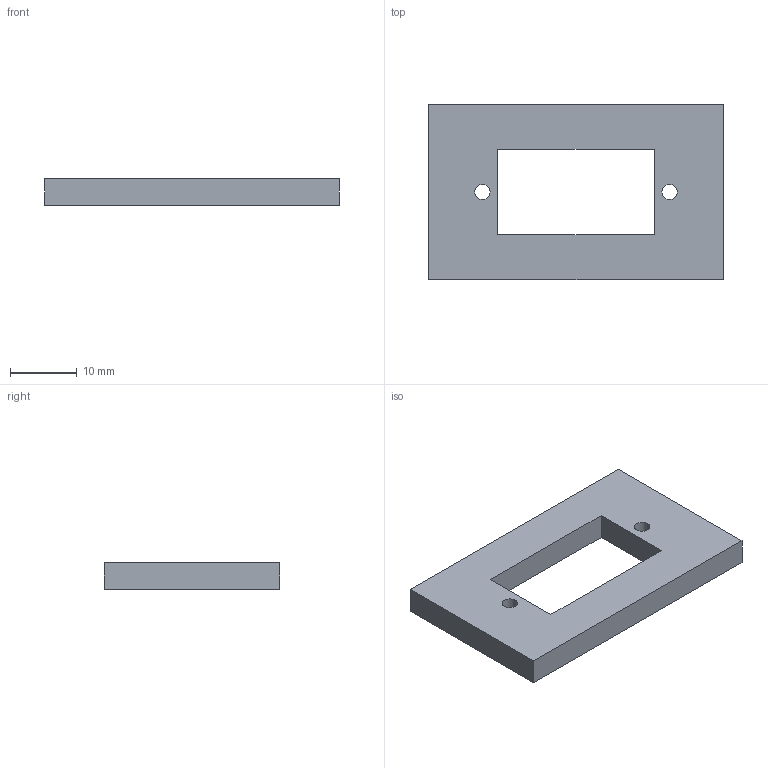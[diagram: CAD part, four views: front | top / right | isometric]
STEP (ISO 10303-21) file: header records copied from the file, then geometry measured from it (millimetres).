
FILE_DESCRIPTION(('FreeCAD Model'),'2;1');
FILE_NAME('Open CASCADE Shape Model','2026-11-07T16:11:58',('FreeCAD'),( 'FreeCAD'),'Open CASCADE STEP processor 7.8','FreeCAD','Unknown');
FILE_SCHEMA(('AUTOMOTIVE_DESIGN { 1 0 10303 214 1 1 1 1 }'));
Length unit declared in the file: millimetre
Products named in the file (1): Open CASCADE STEP translator 7.8 11
Bounding box: 44 x 26.2 x 4 mm (x, y, z)
Volume: 3379.9 mm3; surface area: 2598.9 mm2
Topology: 1 solids, 1 shells, 12 faces, 30 edges, 20 vertices
Faces by surface type: plane 10, cylinder 2
Full cylindrical faces by diameter (mm): 2.3 x2
Entity records: 380 total; most frequent: CARTESIAN_POINT 63, DIRECTION 60, ORIENTED_EDGE 60, EDGE_CURVE 30, LINE 26, VECTOR 26, VERTEX_POINT 20, FACE_BOUND 18
